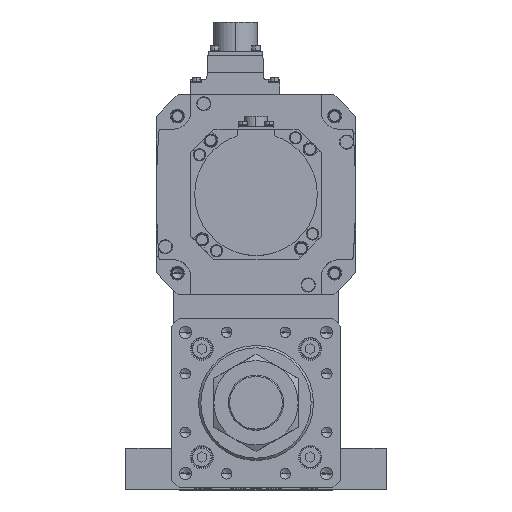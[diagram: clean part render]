
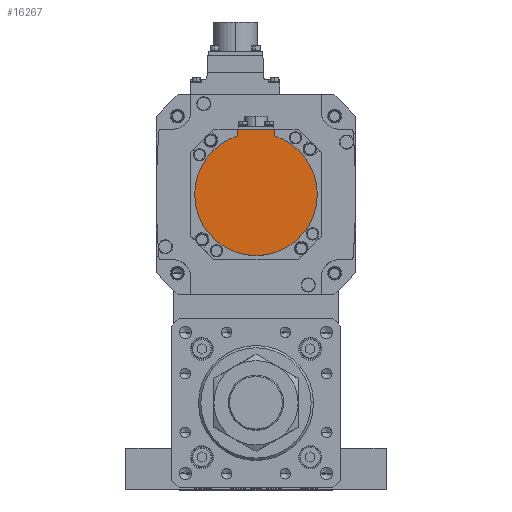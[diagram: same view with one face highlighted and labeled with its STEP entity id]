
A CAD part, top view. The second image highlights one B-rep face of the part: STEP entity #16267.
In plain terms, the highlighted planar face has unit normal (0, 0, 1) as drawn and (0, 0, -1) by its records, which use the part's own axes.
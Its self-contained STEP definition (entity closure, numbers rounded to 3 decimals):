
#312 = DIRECTION ( 'NONE',  ( 0., 0., 1. ) ) ;
#1411 = VERTEX_POINT ( 'NONE', #34883 ) ;
#2600 = ORIENTED_EDGE ( 'NONE', *, *, #5414, .F. ) ;
#5349 = ORIENTED_EDGE ( 'NONE', *, *, #26674, .F. ) ;
#5414 = EDGE_CURVE ( 'NONE', #8614, #32411, #19256, .T. ) ;
#5693 = DIRECTION ( 'NONE',  ( 1., 0., 0. ) ) ;
#6117 = FACE_OUTER_BOUND ( 'NONE', #11396, .T. ) ;
#6909 = EDGE_CURVE ( 'NONE', #17301, #1411, #11990, .T. ) ;
#6958 = VERTEX_POINT ( 'NONE', #9569 ) ;
#7722 = ORIENTED_EDGE ( 'NONE', *, *, #33167, .T. ) ;
#8098 = CIRCLE ( 'NONE', #24458, 40. ) ;
#8614 = VERTEX_POINT ( 'NONE', #24667 ) ;
#9083 = LINE ( 'NONE', #20894, #21462 ) ;
#9438 = DIRECTION ( 'NONE',  ( 0., 1., 0. ) ) ;
#9569 = CARTESIAN_POINT ( 'NONE',  ( 12., -42.5, -132.5 ) ) ;
#9919 = CARTESIAN_POINT ( 'NONE',  ( -12., -40.329, -132.5 ) ) ;
#10431 = LINE ( 'NONE', #9919, #19000 ) ;
#11396 = EDGE_LOOP ( 'NONE', ( #7722, #31170, #5349, #2600, #34083, #26724 ) ) ;
#11476 = VERTEX_POINT ( 'NONE', #27400 ) ;
#11680 = CARTESIAN_POINT ( 'NONE',  ( 0., -1.249, -132.5 ) ) ;
#11990 = CIRCLE ( 'NONE', #13647, 40. ) ;
#13464 = CARTESIAN_POINT ( 'NONE',  ( 0., 0., -132.5 ) ) ;
#13647 = AXIS2_PLACEMENT_3D ( 'NONE', #20831, #28570, #14943 ) ;
#14042 = DIRECTION ( 'NONE',  ( 0., 0., 1. ) ) ;
#14943 = DIRECTION ( 'NONE',  ( 1., 0., 0. ) ) ;
#15302 = CARTESIAN_POINT ( 'NONE',  ( 40., 0., -132.5 ) ) ;
#15460 = AXIS2_PLACEMENT_3D ( 'NONE', #11680, #33350, #17315 ) ;
#16267 = ADVANCED_FACE ( 'NONE', ( #6117 ), #30703, .F. ) ;
#16440 = CARTESIAN_POINT ( 'NONE',  ( 0., 0., -132.5 ) ) ;
#16455 = EDGE_CURVE ( 'NONE', #6958, #11476, #9083, .T. ) ;
#17301 = VERTEX_POINT ( 'NONE', #29155 ) ;
#17315 = DIRECTION ( 'NONE',  ( 1., 0., 0. ) ) ;
#17847 = LINE ( 'NONE', #25808, #24247 ) ;
#19000 = VECTOR ( 'NONE', #29054, 1000. ) ;
#19256 = CIRCLE ( 'NONE', #32387, 40. ) ;
#20831 = CARTESIAN_POINT ( 'NONE',  ( 0., 0., -132.5 ) ) ;
#20894 = CARTESIAN_POINT ( 'NONE',  ( 0., -42.5, -132.5 ) ) ;
#21462 = VECTOR ( 'NONE', #23855, 1000. ) ;
#23855 = DIRECTION ( 'NONE',  ( -1., 0., 0. ) ) ;
#24247 = VECTOR ( 'NONE', #9438, 1000. ) ;
#24458 = AXIS2_PLACEMENT_3D ( 'NONE', #13464, #14042, #30436 ) ;
#24667 = CARTESIAN_POINT ( 'NONE',  ( 12., -38.158, -132.5 ) ) ;
#25808 = CARTESIAN_POINT ( 'NONE',  ( 12., -1.249, -132.5 ) ) ;
#26674 = EDGE_CURVE ( 'NONE', #32411, #17301, #8098, .T. ) ;
#26724 = ORIENTED_EDGE ( 'NONE', *, *, #16455, .T. ) ;
#27400 = CARTESIAN_POINT ( 'NONE',  ( -12., -42.5, -132.5 ) ) ;
#27896 = EDGE_CURVE ( 'NONE', #6958, #8614, #17847, .T. ) ;
#28570 = DIRECTION ( 'NONE',  ( 0., 0., 1. ) ) ;
#29054 = DIRECTION ( 'NONE',  ( 0., 1., 0. ) ) ;
#29155 = CARTESIAN_POINT ( 'NONE',  ( -40., 0., -132.5 ) ) ;
#30436 = DIRECTION ( 'NONE',  ( 1., 0., 0. ) ) ;
#30703 = PLANE ( 'NONE',  #15460 ) ;
#31170 = ORIENTED_EDGE ( 'NONE', *, *, #6909, .F. ) ;
#32387 = AXIS2_PLACEMENT_3D ( 'NONE', #16440, #312, #5693 ) ;
#32411 = VERTEX_POINT ( 'NONE', #15302 ) ;
#33167 = EDGE_CURVE ( 'NONE', #11476, #1411, #10431, .T. ) ;
#33350 = DIRECTION ( 'NONE',  ( 0., 0., 1. ) ) ;
#34083 = ORIENTED_EDGE ( 'NONE', *, *, #27896, .F. ) ;
#34883 = CARTESIAN_POINT ( 'NONE',  ( -12., -38.158, -132.5 ) ) ;
